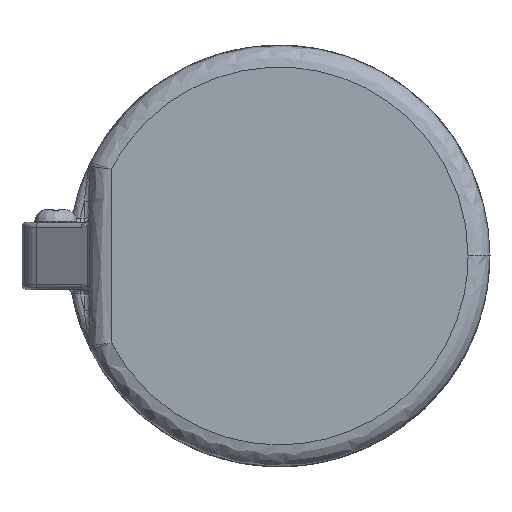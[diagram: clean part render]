
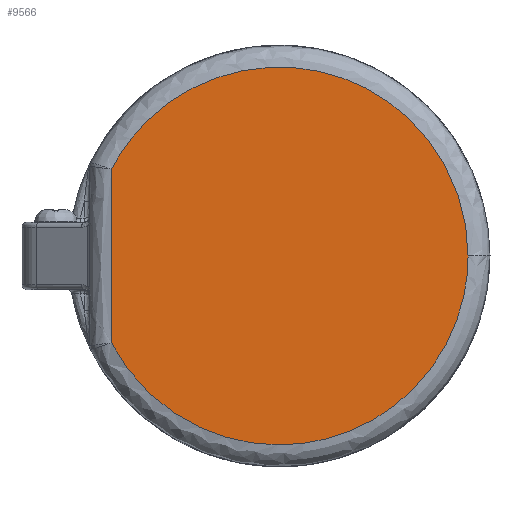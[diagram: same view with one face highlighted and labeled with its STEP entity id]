
A CAD part, front view. The second image highlights one B-rep face of the part: STEP entity #9566.
In plain terms, the highlighted free-form (B-spline) face has degree [1, 1] with [2, 2] control points.
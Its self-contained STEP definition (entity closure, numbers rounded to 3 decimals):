
#9518=CARTESIAN_POINT('F176',(-27.5,
   -76.,-27.218));
#9519=CARTESIAN_POINT('F176',(27.5,-76.,
   -27.218));
#9520=CARTESIAN_POINT('F176',(-27.5,
   -76.,27.218));
#9521=CARTESIAN_POINT('F176',(27.5,-76.,
   27.218));
#9522=QUASI_UNIFORM_SURFACE('F176',1,1,((#9518,#9520),(#9519,
   #9521)),.PLANE_SURF.,.F.,.F.,.U.);
#9523=CARTESIAN_POINT('V183',(-19.9,
   -76.,-10.283));
#9524=VERTEX_POINT('V183',#9523);
#9525=CARTESIAN_POINT('V191',(22.4,-76.,
   0.));
#9526=VERTEX_POINT('V191',#9525);
#9527=CARTESIAN_POINT('E356',(-19.9,
   -76.,-10.283));
#9528=CARTESIAN_POINT('E356',(-11.924,
   -76.,-25.718));
#9529=CARTESIAN_POINT('E356',(5.009,-76.,
   -21.833));
#9530=CARTESIAN_POINT('E356',(22.4,-76.,
   -17.843));
#9531=CARTESIAN_POINT('E356',(22.4,-76.,
   0.));
#9539=(BOUNDED_CURVE()B_SPLINE_CURVE(2,(#9527,#9528,#9529,#9530,
   #9531),.CIRCULAR_ARC.,.F.,.U.)B_SPLINE_CURVE_WITH_KNOTS((3,2,3),
   (2.153,9.379,16.757),
   .UNSPECIFIED.)CURVE()GEOMETRIC_REPRESENTATION_ITEM()
   RATIONAL_B_SPLINE_CURVE((0.991,0.787,
   1.0,0.782,1.0))REPRESENTATION_ITEM('E356'));
#9540=EDGE_CURVE('E356',#9524,#9526,#9539,.T.);
#9541=ORIENTED_EDGE('E356',*,*,#9540,.T.);
#9542=CARTESIAN_POINT('V186',(-19.9,
   -76.,10.283));
#9543=VERTEX_POINT('V186',#9542);
#9544=CARTESIAN_POINT('E352',(22.4,-76.,
   0.));
#9545=CARTESIAN_POINT('E352',(22.4,-76.,
   17.843));
#9546=CARTESIAN_POINT('E352',(5.009,-76.,
   21.833));
#9547=CARTESIAN_POINT('E352',(-11.924,
   -76.,25.718));
#9548=CARTESIAN_POINT('E352',(-19.9,
   -76.,10.283));
#9556=(BOUNDED_CURVE()B_SPLINE_CURVE(2,(#9544,#9545,#9546,#9547,
   #9548),.CIRCULAR_ARC.,.F.,.U.)B_SPLINE_CURVE_WITH_KNOTS((3,2,3),
   (2.0,9.379,16.604),.UNSPECIFIED.)CURVE()
   GEOMETRIC_REPRESENTATION_ITEM()RATIONAL_B_SPLINE_CURVE((1.0,
   0.782,1.0,0.787,0.991))
   REPRESENTATION_ITEM('E352'));
#9557=EDGE_CURVE('E352',#9526,#9543,#9556,.T.);
#9558=ORIENTED_EDGE('E352',*,*,#9557,.T.);
#9559=CARTESIAN_POINT('E350',(-19.9,
   -76.,10.283));
#9560=CARTESIAN_POINT('E350',(-19.9,
   -76.,-10.283));
#9561=B_SPLINE_CURVE_WITH_KNOTS('E350',1,(#9559,#9560),
   .POLYLINE_FORM.,.F.,.U.,(2,2),(2.15,
   7.186),.UNSPECIFIED.);
#9562=EDGE_CURVE('E350',#9543,#9524,#9561,.T.);
#9563=ORIENTED_EDGE('E350',*,*,#9562,.T.);
#9564=EDGE_LOOP('F176',(#9541,#9558,#9563));
#9565=FACE_OUTER_BOUND('F176',#9564,.T.);
#9566=ADVANCED_FACE('F176',(#9565),#9522,.T.);
